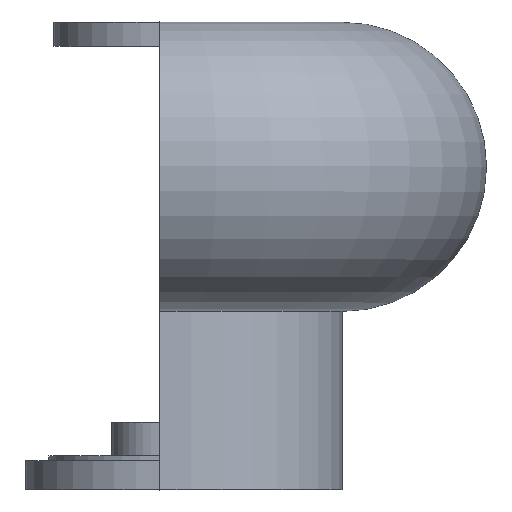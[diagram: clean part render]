
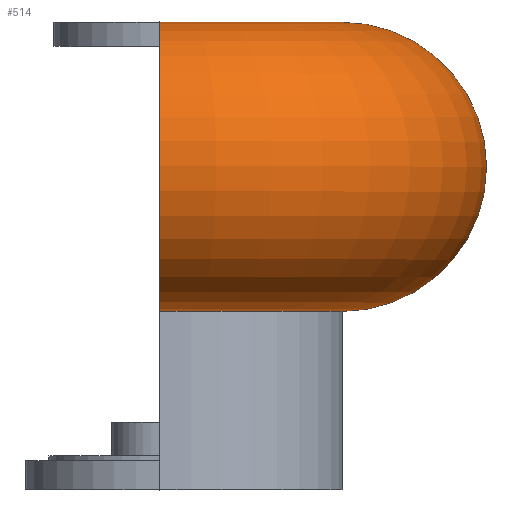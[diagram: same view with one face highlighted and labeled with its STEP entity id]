
A CAD part, top view. The second image highlights one B-rep face of the part: STEP entity #514.
In plain terms, the highlighted toroidal (fillet/blend) face has major radius 37.855 mm and minor radius 30 mm.
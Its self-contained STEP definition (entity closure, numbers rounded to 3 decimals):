
#15=TOROIDAL_SURFACE('',#605,37.855,30.);
#76=FACE_OUTER_BOUND('',#118,.T.);
#118=EDGE_LOOP('',(#437,#438,#439,#440));
#212=CIRCLE('',#589,37.855);
#214=CIRCLE('',#592,30.);
#220=CIRCLE('',#604,37.855);
#221=CIRCLE('',#606,30.);
#253=VERTEX_POINT('',#877);
#254=VERTEX_POINT('',#879);
#261=VERTEX_POINT('',#895);
#266=VERTEX_POINT('',#917);
#309=EDGE_CURVE('',#253,#254,#212,.T.);
#318=EDGE_CURVE('',#261,#253,#214,.T.);
#329=EDGE_CURVE('',#261,#266,#220,.T.);
#330=EDGE_CURVE('',#254,#266,#221,.T.);
#437=ORIENTED_EDGE('',*,*,#318,.F.);
#438=ORIENTED_EDGE('',*,*,#329,.T.);
#439=ORIENTED_EDGE('',*,*,#330,.F.);
#440=ORIENTED_EDGE('',*,*,#309,.F.);
#514=ADVANCED_FACE('',(#76),#15,.T.);
#589=AXIS2_PLACEMENT_3D('',#880,#724,#725);
#592=AXIS2_PLACEMENT_3D('',#897,#737,#738);
#604=AXIS2_PLACEMENT_3D('',#919,#766,#767);
#605=AXIS2_PLACEMENT_3D('',#920,#768,#769);
#606=AXIS2_PLACEMENT_3D('',#921,#770,#771);
#724=DIRECTION('center_axis',(0.,1.,0.));
#725=DIRECTION('ref_axis',(0.,0.,1.));
#737=DIRECTION('center_axis',(-1.,0.,0.));
#738=DIRECTION('ref_axis',(0.,-1.,0.));
#766=DIRECTION('center_axis',(0.,1.,0.));
#767=DIRECTION('ref_axis',(0.,0.,1.));
#768=DIRECTION('center_axis',(0.,1.,0.));
#769=DIRECTION('ref_axis',(1.,0.,0.));
#770=DIRECTION('center_axis',(-1.,0.,0.));
#771=DIRECTION('ref_axis',(0.,-1.,0.));
#877=CARTESIAN_POINT('',(-24.696,50.,37.855));
#879=CARTESIAN_POINT('',(-24.696,50.,-37.855));
#880=CARTESIAN_POINT('Origin',(-24.696,50.,0.));
#895=CARTESIAN_POINT('',(-24.696,-10.,37.855));
#897=CARTESIAN_POINT('Origin',(-24.696,20.,37.855));
#917=CARTESIAN_POINT('',(-24.696,-10.,-37.855));
#919=CARTESIAN_POINT('Origin',(-24.696,-10.,0.));
#920=CARTESIAN_POINT('Origin',(-24.696,20.,0.));
#921=CARTESIAN_POINT('Origin',(-24.696,20.,-37.855));
